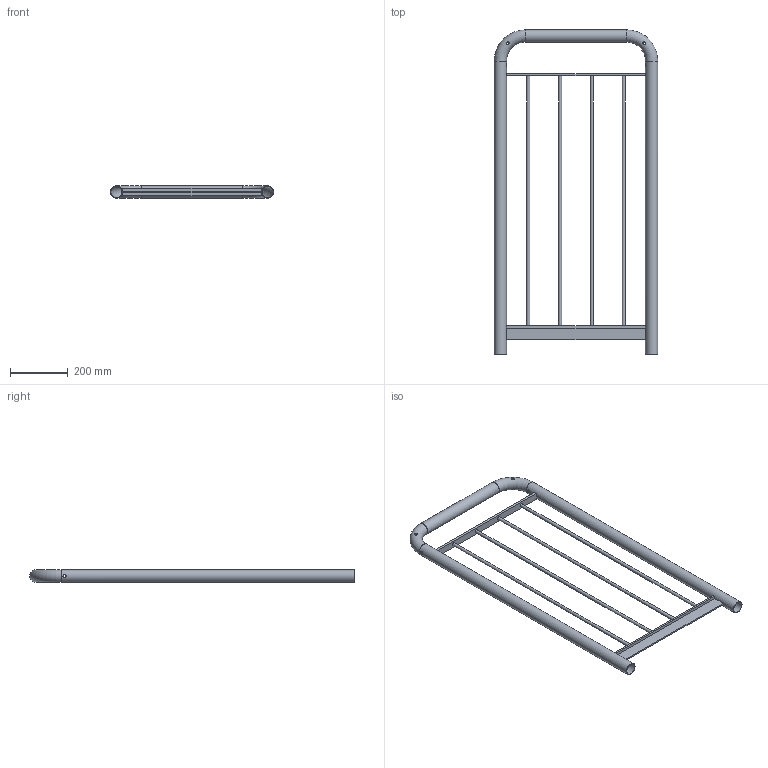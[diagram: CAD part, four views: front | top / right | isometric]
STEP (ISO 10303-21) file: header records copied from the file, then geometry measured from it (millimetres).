
FILE_DESCRIPTION((''),'2;1');
FILE_NAME('S:\Användarkataloger\AndreasA\Mina Inventor filer\Räcken\STEP\modul_bos_600-1100.stp','2010-09-07T13:30:59',('AndreasA'),(''),'Autodesk Inventor 2011','Autodesk Inventor 2011','');
FILE_SCHEMA(('AUTOMOTIVE_DESIGN { 1 0 10303 214 1 1 1 1 }'));
Length unit declared in the file: millimetre
Products named in the file (4): modul_bos_600-1100; handledare_modul_600-1100; galleri_modul_600; pls_modul_bos_600
Assembly tree (3 placements, depth 2):
  modul_bos_600-1100
    handledare_modul_600-1100
    galleri_modul_600
    pls_modul_bos_600
Bounding box: 565.4 x 1121.2 x 42.4 mm (x, y, z)
Volume: 1287753.7 mm3; surface area: 898567.8 mm2
Topology: 3 solids, 3 shells, 42 faces, 106 edges, 68 vertices
Faces by surface type: plane 20, cylinder 18, torus 4
Full cylindrical faces by diameter (mm): 10 x4, 11 x8, 38.4 x3, 42.4 x3
Entity records: 1895 total; most frequent: CARTESIAN_POINT 897, DIRECTION 174, ORIENTED_EDGE 144, EDGE_LOOP 90, EDGE_CURVE 72, AXIS2_PLACEMENT_3D 69, VERTEX_POINT 60, FACE_BOUND 48
